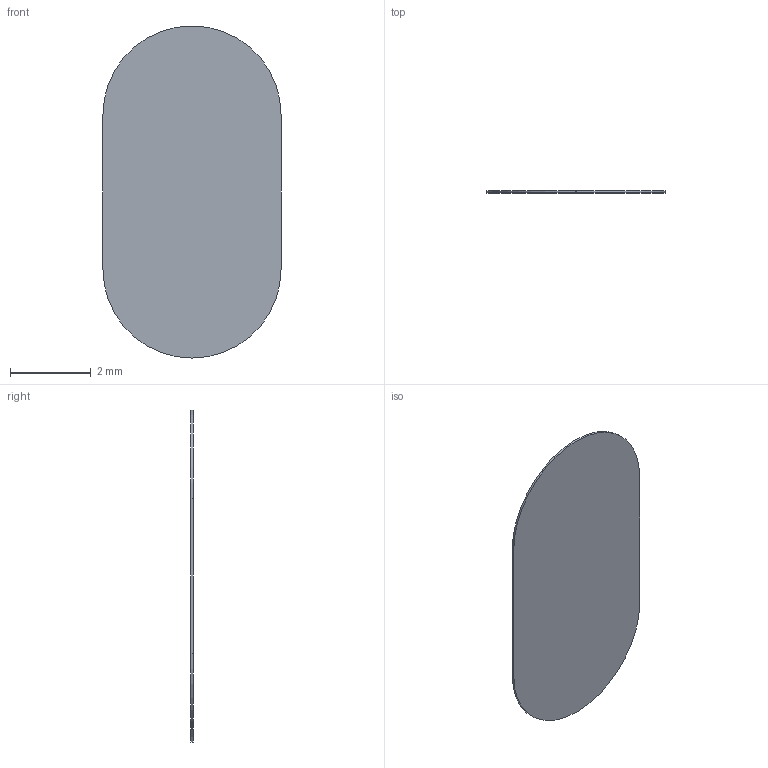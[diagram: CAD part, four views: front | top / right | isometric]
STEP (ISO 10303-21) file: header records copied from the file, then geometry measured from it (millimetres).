
FILE_DESCRIPTION(('Open CASCADE Model'),'2;1');
FILE_NAME('Open CASCADE Shape Model','2026-10-01T12:35:22',('Author'),( 'Open CASCADE'),'Open CASCADE STEP processor 7.8','Open CASCADE 7.8' ,'Unknown');
FILE_SCHEMA(('AUTOMOTIVE_DESIGN { 1 0 10303 214 1 1 1 1 }'));
Length unit declared in the file: millimetre
Products named in the file (2): V03_Eye_pixels; V03_Eye_pixels_solid
Assembly tree (1 placements, depth 2):
  V03_Eye_pixels
    V03_Eye_pixels_solid
Bounding box: 4.4 x 0.05 x 8.2 mm (x, y, z)
Volume: 1.6 mm3; surface area: 65 mm2
Topology: 1 solids, 1 shells, 10 faces, 24 edges, 16 vertices
Faces by surface type: plane 6, cylinder 4
Entity records: 657 total; most frequent: CARTESIAN_POINT 124, DIRECTION 100, LINE 56, VECTOR 56, ORIENTED_EDGE 48, PCURVE 48, DEFINITIONAL_REPRESENTATION 48, EDGE_CURVE 24
